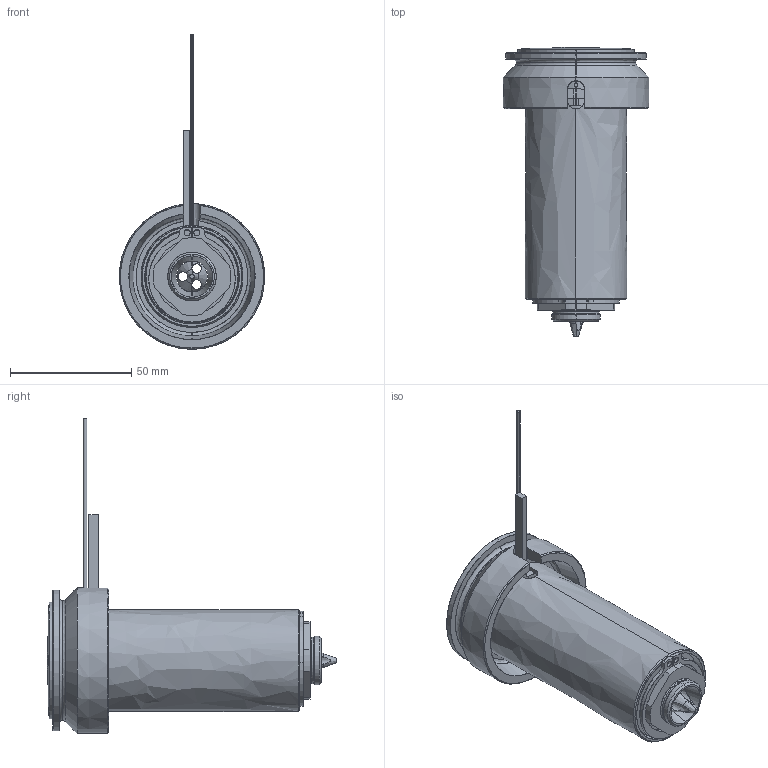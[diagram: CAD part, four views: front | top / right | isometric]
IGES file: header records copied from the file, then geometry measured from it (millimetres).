
Start section: SolidWorks IGES file using analytic representation for surfaces
Global section: file name: C:\Documents and Settings\ws-20\Desktop\TEM\UGEP6004-M-A-1 [Øf-1.9 ØC-16].IGS; native system: SolidWorks 2012; preprocessor: SolidWorks 2012; author: ws-20; date: 120427.093923; units: millimetre
Bounding box: 60 x 119.05 x 129.65 mm (x, y, z)
Surface area: 59001.3 mm2 (no closed solid volume)
Topology: 0 solids, 0 shells, 127 faces, 2307 edges, 2307 vertices
Faces by surface type: revolution 81, bspline 46
